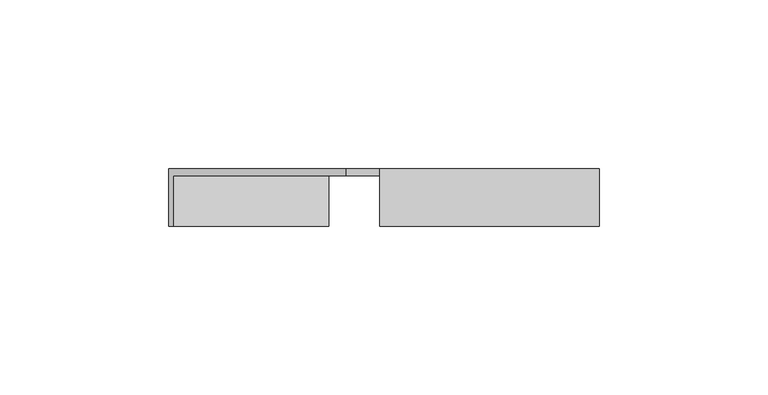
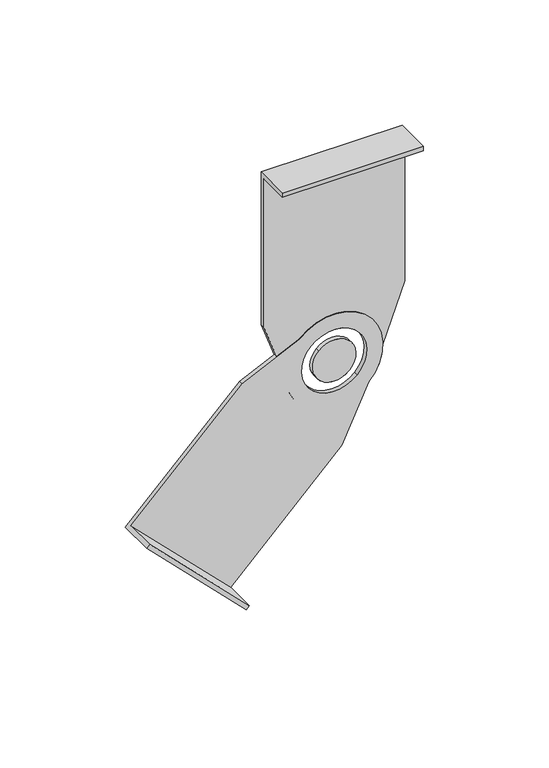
"""IFC4 building model written with IfcOpenShell, lengths in millimetres: cable carrier fitting geometry, BAKS_LD_TEE_Articulated connector attachable_LDD : LDDC_H45."""

from ifc_helpers import new_model, si_unit, frame, origin, place, context, project, spatial, polyline, circle_curve, source, transform, mapped, element, save
from ifc_brep_helpers import plane_surface, cylinder_surface, revolved_surface, advanced_brep


def cable_carrier_fitting_df7fb664(model_context):
    return source(origin(), model_context, "Body", "AdvancedBrep", [
        advanced_brep(
        [(-7.0710678, 2.0, 7.0710678), (7.0710678, 2.0, -7.0710678), (7.0710678, 0.0, -7.0710678), (-7.0710678, 0.0, 7.0710678)],
        [
            (0, 1, circle_curve(frame((0.0, 2.0, 0.0), z_axis=(0.0, 1.0, 0.0), x_axis=(-0.7071067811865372, 0.0, 0.7071067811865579)), 10.0)),
            (1, 0, circle_curve(frame((0.0, 2.0, 0.0), z_axis=(0.0, 1.0, 0.0), x_axis=(-0.7071067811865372, 0.0, 0.7071067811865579)), 10.0)),
            (2, 3, circle_curve(frame((0.0, 0.0, 0.0), z_axis=(0.0, -1.0, 0.0), x_axis=(-0.7071067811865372, 0.0, 0.7071067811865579)), 10.0)),
            (3, 2, circle_curve(frame((0.0, 0.0, 0.0), z_axis=(0.0, -1.0, 0.0), x_axis=(-0.7071067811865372, 0.0, 0.7071067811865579)), 10.0)),
            (1, 2),
            (3, 0),
        ],
        [
            plane_surface(frame((-47.7297077, 2.0, -93.6916485), z_axis=(0.0, 1.0, 0.0), x_axis=(0.7071067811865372, 0.0, -0.7071067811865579))),
            plane_surface(frame((-47.7297077, 0.0, -93.6916485), z_axis=(0.0, -1.0, 0.0), x_axis=(-0.7071067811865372, 0.0, 0.7071067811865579))),
            cylinder_surface(frame((0.0, 0.0, 0.0), z_axis=(0.0, -1.0, 0.0), x_axis=(-0.7071067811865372, 0.0, 0.7071067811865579)), 10.0),
        ],
        [
            (0, [[1, 2]]),
            (1, [[3, 4]]),
            (2, [[-2, 5, -4, 6]]),
            (2, [[-3, -5, -1, -6]]),
        ],
    ),
        advanced_brep(
        [(3.5355339, 2.0, -42.4264069), (-49.1439213, 2.0, -95.1058621), (-95.1058621, 2.0, -49.1439213), (-42.4264069, 2.0, 3.5355339), (-15.9099026, 2.0, 15.9099026), (15.9099026, 2.0, -15.9099026), (-10.6066017, 2.0, 10.6066017), (10.6066017, 2.0, -10.6066017), (-93.6916485, 0.0, -47.7297077), (-47.7297077, 0.0, -93.6916485), (3.5355339, 0.0, -42.4264069), (15.9099026, 0.0, -15.9099026), (-15.9099026, 0.0, 15.9099026), (-42.4264069, 0.0, 3.5355339), (10.6066017, 0.0, -10.6066017), (-10.6066017, 0.0, 10.6066017), (-47.7297077, -15.0, -93.6916485), (-49.1439213, -15.0, -95.1058621), (-95.1058621, -15.0, -49.1439213), (-93.6916485, -15.0, -47.7297077)],
        [
            (0, 1),
            (1, 2),
            (2, 3),
            (3, 4),
            (4, 5, circle_curve(frame((0.0, 2.0, 0.0), z_axis=(0.0, 1.0, 0.0), x_axis=(-0.7071067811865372, 0.0, 0.7071067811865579)), 22.5)),
            (5, 0),
            (6, 7, circle_curve(frame((0.0, 2.0, 0.0), z_axis=(0.0, -1.0, 0.0), x_axis=(-0.7071067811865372, 0.0, 0.7071067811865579)), 15.0)),
            (7, 6, circle_curve(frame((0.0, 2.0, 0.0), z_axis=(0.0, -1.0, 0.0), x_axis=(-0.7071067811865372, 0.0, 0.7071067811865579)), 15.0)),
            (8, 9),
            (9, 10),
            (10, 11),
            (11, 12, circle_curve(frame((0.0, 0.0, 0.0), z_axis=(0.0, -1.0, 0.0), x_axis=(-0.7071067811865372, 0.0, 0.7071067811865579)), 22.5)),
            (12, 13),
            (13, 8),
            (14, 15, circle_curve(frame((0.0, 0.0, 0.0), z_axis=(0.0, 1.0, 0.0), x_axis=(-0.7071067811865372, 0.0, 0.7071067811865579)), 15.0)),
            (15, 14, circle_curve(frame((0.0, 0.0, 0.0), z_axis=(0.0, 1.0, 0.0), x_axis=(-0.7071067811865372, 0.0, 0.7071067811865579)), 15.0)),
            (0, 10),
            (9, 16),
            (16, 17),
            (17, 1),
            (5, 11),
            (4, 12),
            (3, 13),
            (2, 18),
            (18, 19),
            (19, 8),
            (7, 14),
            (15, 6),
            (19, 16),
            (17, 18),
        ],
        [
            plane_surface(frame((-47.7297077, 2.0, -93.6916485), z_axis=(0.0, 1.0, 0.0), x_axis=(0.7071067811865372, 0.0, -0.7071067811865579))),
            plane_surface(frame((-47.7297077, 0.0, -93.6916485), z_axis=(0.0, -1.0, 0.0), x_axis=(-0.7071067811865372, 0.0, 0.7071067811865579))),
            plane_surface(frame((-47.7297077, 2.0, -93.6916485), z_axis=(0.707106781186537, 0.0, -0.7071067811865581), x_axis=(0.0, -1.0, 0.0))),
            plane_surface(frame((3.5355339, 2.0, -42.4264069), z_axis=(0.9061831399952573, 0.0, -0.4228854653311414), x_axis=(0.0, -1.0, 0.0))),
            cylinder_surface(frame((0.0, 0.0, 0.0), z_axis=(0.0, 1.0, 0.0), x_axis=(-0.7071067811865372, 0.0, 0.7071067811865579)), 22.5),
            plane_surface(frame((-15.9099026, 2.0, 15.9099026), z_axis=(-0.42288546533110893, 0.0, 0.9061831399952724), x_axis=(0.0, -1.0, 0.0))),
            plane_surface(frame((-42.4264069, 2.0, 3.5355339), z_axis=(-0.7071067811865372, 0.0, 0.7071067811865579), x_axis=(0.0, -1.0, 0.0))),
            revolved_surface(polyline([(-10.606601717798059, 2.0, 10.606601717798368), (-10.606601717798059, 0.0, 10.606601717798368)]), (0.0, 0.0, 0.0), (0.0, 1.0, 0.0)),
            plane_surface(frame((-47.7297077, 2.0, -93.6916485), z_axis=(0.7071067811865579, 0.0, 0.7071067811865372), x_axis=(0.7071067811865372, 0.0, -0.7071067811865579))),
            plane_surface(frame((-49.1439213, 2.0, -95.1058621), z_axis=(-0.7071067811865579, 0.0, -0.7071067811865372), x_axis=(-0.7071067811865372, 0.0, 0.7071067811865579))),
            plane_surface(frame((-47.7297077, -15.0, -93.6916485), z_axis=(0.0, -1.0, 0.0), x_axis=(-0.7071067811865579, 0.0, -0.7071067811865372))),
        ],
        [
            (0, [[1, 2, 3, 4, 5, 6], [7, 8]]),
            (1, [[9, 10, 11, 12, 13, 14], [15, 16]]),
            (2, [[17, -10, 18, 19, 20, -1]]),
            (3, [[21, -11, -17, -6]]),
            (4, [[22, -12, -21, -5]]),
            (5, [[23, -13, -22, -4]]),
            (6, [[24, 25, 26, -14, -23, -3]]),
            (7, [[-8, 27, -16, 28]]),
            (7, [[-15, -27, -7, -28]]),
            (8, [[-18, -9, -26, 29]]),
            (9, [[-2, -20, 30, -24]]),
            (10, [[-25, -30, -19, -29]]),
        ],
    ),
        advanced_brep(
        [(10.0, 2.0, 0.0), (-10.0, 2.0, 0.0), (-10.0, 0.0, 0.0), (10.0, 0.0, 0.0)],
        [
            (0, 1, circle_curve(frame((0.0, 2.0, 0.0), z_axis=(0.0, 1.0, 0.0), x_axis=(1.0, 0.0, 0.0)), 10.0)),
            (1, 0, circle_curve(frame((0.0, 2.0, 0.0), z_axis=(0.0, 1.0, 0.0), x_axis=(1.0, 0.0, 0.0)), 10.0)),
            (2, 3, circle_curve(frame((0.0, 0.0, 0.0), z_axis=(0.0, -1.0, 0.0), x_axis=(1.0, 0.0, 0.0)), 10.0)),
            (3, 2, circle_curve(frame((0.0, 0.0, 0.0), z_axis=(0.0, -1.0, 0.0), x_axis=(1.0, 0.0, 0.0)), 10.0)),
            (1, 2),
            (3, 0),
        ],
        [
            plane_surface(frame((-32.5, 2.0, 100.0), z_axis=(0.0, 1.0, 0.0), x_axis=(-1.0, 0.0, 0.0))),
            plane_surface(frame((-32.5, 0.0, 100.0), z_axis=(0.0, -1.0, 0.0), x_axis=(1.0, 0.0, 0.0))),
            cylinder_surface(frame((0.0, 0.0, 0.0), z_axis=(0.0, -1.0, 0.0), x_axis=(1.0, 0.0, 0.0)), 10.0),
        ],
        [
            (0, [[1, 2]]),
            (1, [[3, 4]]),
            (2, [[-2, 5, -4, 6]]),
            (2, [[-3, -5, -1, -6]]),
        ],
    ),
        advanced_brep(
        [(-32.5, 2.0, 27.5), (-32.5, 2.0, 102.0), (32.5, 2.0, 102.0), (32.5, 2.0, 27.5), (22.5, 2.0, 0.0), (-22.5, 2.0, 0.0), (15.0, 2.0, 0.0), (-15.0, 2.0, 0.0), (32.5, 0.0, 100.0), (-32.5, 0.0, 100.0), (-32.5, 0.0, 27.5), (-22.5, 0.0, 0.0), (22.5, 0.0, 0.0), (32.5, 0.0, 27.5), (-15.0, 0.0, 0.0), (15.0, 0.0, 0.0), (-32.5, -15.0, 100.0), (-32.5, -15.0, 102.0), (32.5, -15.0, 102.0), (32.5, -15.0, 100.0)],
        [
            (0, 1),
            (1, 2),
            (2, 3),
            (3, 4),
            (4, 5, circle_curve(frame((0.0, 2.0, 0.0), z_axis=(0.0, 1.0, 0.0), x_axis=(1.0, 0.0, 0.0)), 22.5)),
            (5, 0),
            (6, 7, circle_curve(frame((0.0, 2.0, 0.0), z_axis=(0.0, -1.0, 0.0), x_axis=(1.0, 0.0, 0.0)), 15.0)),
            (7, 6, circle_curve(frame((0.0, 2.0, 0.0), z_axis=(0.0, -1.0, 0.0), x_axis=(1.0, 0.0, 0.0)), 15.0)),
            (8, 9),
            (9, 10),
            (10, 11),
            (11, 12, circle_curve(frame((0.0, 0.0, 0.0), z_axis=(0.0, -1.0, 0.0), x_axis=(1.0, 0.0, 0.0)), 22.5)),
            (12, 13),
            (13, 8),
            (14, 15, circle_curve(frame((0.0, 0.0, 0.0), z_axis=(0.0, 1.0, 0.0), x_axis=(1.0, 0.0, 0.0)), 15.0)),
            (15, 14, circle_curve(frame((0.0, 0.0, 0.0), z_axis=(0.0, 1.0, 0.0), x_axis=(1.0, 0.0, 0.0)), 15.0)),
            (0, 10),
            (9, 16),
            (16, 17),
            (17, 1),
            (5, 11),
            (4, 12),
            (3, 13),
            (2, 18),
            (18, 19),
            (19, 8),
            (7, 14),
            (15, 6),
            (19, 16),
            (17, 18),
        ],
        [
            plane_surface(frame((-32.5, 2.0, 100.0), z_axis=(0.0, 1.0, 0.0), x_axis=(-1.0, 0.0, 0.0))),
            plane_surface(frame((-32.5, 0.0, 100.0), z_axis=(0.0, -1.0, 0.0), x_axis=(1.0, 0.0, 0.0))),
            plane_surface(frame((-32.5, 2.0, 100.0), z_axis=(-1.0, 0.0, 0.0), x_axis=(0.0, -1.0, 0.0))),
            plane_surface(frame((-32.5, 2.0, 27.5), z_axis=(-0.9397934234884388, 0.0, -0.3417430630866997), x_axis=(0.0, -1.0, 0.0))),
            cylinder_surface(frame((0.0, 0.0, 0.0), z_axis=(0.0, 1.0, 0.0), x_axis=(1.0, 0.0, 0.0)), 22.5),
            plane_surface(frame((22.5, 2.0, 0.0), z_axis=(0.9397934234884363, 0.0, -0.34174306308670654), x_axis=(0.0, -1.0, 0.0))),
            plane_surface(frame((32.5, 2.0, 27.5), z_axis=(1.0, 0.0, 0.0), x_axis=(0.0, -1.0, 0.0))),
            revolved_surface(polyline([(15.0, 2.0, 0.0), (15.0, 0.0, 0.0)]), (0.0, 0.0, 0.0), (0.0, 1.0, 0.0)),
            plane_surface(frame((-32.5, 2.0, 100.0), z_axis=(0.0, 0.0, -1.0), x_axis=(-1.0, 0.0, 0.0))),
            plane_surface(frame((-32.5, 2.0, 102.0), z_axis=(0.0, 0.0, 1.0), x_axis=(1.0, 0.0, 0.0))),
            plane_surface(frame((-32.5, -15.0, 100.0), z_axis=(0.0, -1.0, 0.0), x_axis=(0.0, 0.0, 1.0))),
        ],
        [
            (0, [[1, 2, 3, 4, 5, 6], [7, 8]]),
            (1, [[9, 10, 11, 12, 13, 14], [15, 16]]),
            (2, [[17, -10, 18, 19, 20, -1]]),
            (3, [[21, -11, -17, -6]]),
            (4, [[22, -12, -21, -5]]),
            (5, [[23, -13, -22, -4]]),
            (6, [[24, 25, 26, -14, -23, -3]]),
            (7, [[-8, 27, -16, 28]]),
            (7, [[-15, -27, -7, -28]]),
            (8, [[-18, -9, -26, 29]]),
            (9, [[-2, -20, 30, -24]]),
            (10, [[-25, -30, -19, -29]]),
        ],
    ),
    ])


if __name__ == "__main__":
    model = new_model("IFC4")
    model_context = context("Model", 3, world=origin())
    ifc_project = project(units=[si_unit("LENGTHUNIT", "METRE", prefix="MILLI")], contexts=[model_context])
    site = spatial("IfcSite", under=ifc_project)
    building = spatial("IfcBuilding", under=site)
    placement = place(None, origin())
    cable_carrier_fitting_shape = cable_carrier_fitting_df7fb664(model_context)
    element("IfcCableCarrierFitting", 1, ObjectType="BAKS_LD_TEE_Articulated connector attachable_LDD : LDDC_H45", at=placement, inside=building, context=model_context, shape_type="MappedRepresentation", body=[
        mapped(cable_carrier_fitting_shape, transform((0.0, 0.0, 0.0), x_axis=(1.0, 0.0, 0.0), y_axis=(0.0, 1.0, 0.0), z_axis=(0.0, 0.0, 1.0))),
    ])
    save(model, "model.ifc")
